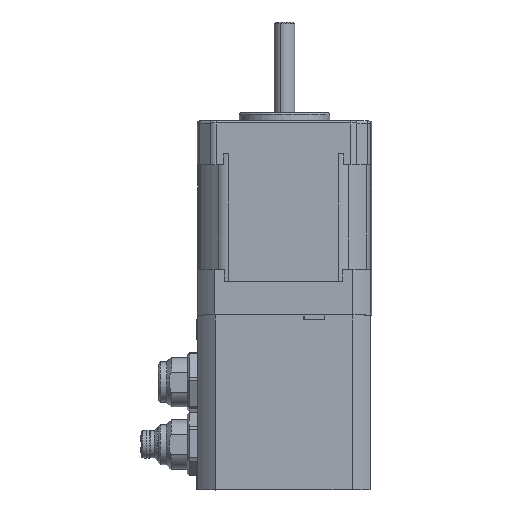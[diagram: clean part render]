
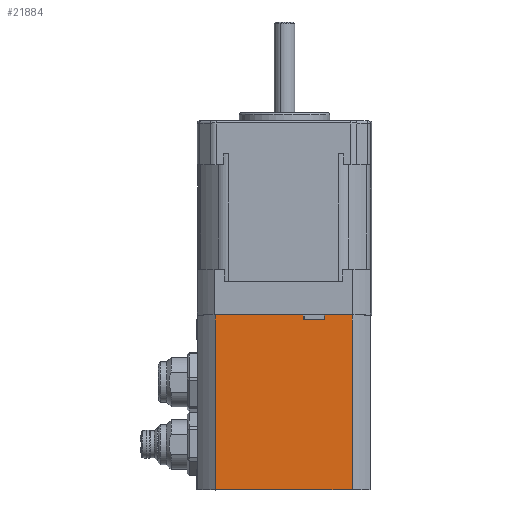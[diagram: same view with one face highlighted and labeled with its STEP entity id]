
A CAD part, top view. The second image highlights one B-rep face of the part: STEP entity #21884.
In plain terms, the highlighted planar face has unit normal (0, 0, 1) as drawn and (-1, 0, 0) by its records, which use the part's own axes.
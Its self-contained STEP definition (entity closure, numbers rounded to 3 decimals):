
#1638 = CARTESIAN_POINT ( 'NONE',  ( -21., -16.651, 0. ) ) ;
#1882 = CARTESIAN_POINT ( 'NONE',  ( -21., 16.651, 42.5 ) ) ;
#2570 = LINE ( 'NONE', #29302, #17766 ) ;
#3256 = CARTESIAN_POINT ( 'NONE',  ( -21., 16.651, 42.5 ) ) ;
#3631 = DIRECTION ( 'NONE',  ( 0., 1., 0. ) ) ;
#5632 = VECTOR ( 'NONE', #8927, 1000. ) ;
#5806 = LINE ( 'NONE', #13314, #27537 ) ;
#8302 = CARTESIAN_POINT ( 'NONE',  ( -21., 8.325, 41.3 ) ) ;
#8536 = CARTESIAN_POINT ( 'NONE',  ( -21., -4.8, 42.5 ) ) ;
#8927 = DIRECTION ( 'NONE',  ( 0., 0., -1. ) ) ;
#9353 = CARTESIAN_POINT ( 'NONE',  ( -21., -10., 41.3 ) ) ;
#9727 = VECTOR ( 'NONE', #3631, 1000. ) ;
#10263 = EDGE_CURVE ( 'NONE', #24401, #49385, #2570, .T. ) ;
#10707 = VECTOR ( 'NONE', #15327, 1000. ) ;
#10784 = LINE ( 'NONE', #3256, #51136 ) ;
#11979 = CARTESIAN_POINT ( 'NONE',  ( -21., 16.651, 0. ) ) ;
#12796 = CARTESIAN_POINT ( 'NONE',  ( -21., -10., 21.25 ) ) ;
#13055 = LINE ( 'NONE', #12796, #5632 ) ;
#13314 = CARTESIAN_POINT ( 'NONE',  ( -21., 16.651, 42.5 ) ) ;
#13544 = DIRECTION ( 'NONE',  ( 0., 0., 1. ) ) ;
#13801 = LINE ( 'NONE', #1638, #33965 ) ;
#14294 = LINE ( 'NONE', #26973, #10707 ) ;
#15327 = DIRECTION ( 'NONE',  ( 0., -1., 0. ) ) ;
#17275 = EDGE_CURVE ( 'NONE', #44589, #37929, #13055, .T. ) ;
#17766 = VECTOR ( 'NONE', #18372, 1000. ) ;
#17980 = VERTEX_POINT ( 'NONE', #35236 ) ;
#18372 = DIRECTION ( 'NONE',  ( 0., 0., 1. ) ) ;
#19301 = FACE_OUTER_BOUND ( 'NONE', #29882, .T. ) ;
#19303 = EDGE_CURVE ( 'NONE', #44589, #17980, #5806, .T. ) ;
#21073 = DIRECTION ( 'NONE',  ( 0., -1., 0. ) ) ;
#21095 = VECTOR ( 'NONE', #25749, 1000. ) ;
#21395 = ORIENTED_EDGE ( 'NONE', *, *, #41807, .T. ) ;
#21884 = ADVANCED_FACE ( 'NONE', ( #19301 ), #51225, .T. ) ;
#23138 = VERTEX_POINT ( 'NONE', #8536 ) ;
#23250 = ORIENTED_EDGE ( 'NONE', *, *, #19303, .F. ) ;
#24361 = ORIENTED_EDGE ( 'NONE', *, *, #10263, .F. ) ;
#24401 = VERTEX_POINT ( 'NONE', #11979 ) ;
#24956 = ORIENTED_EDGE ( 'NONE', *, *, #45730, .F. ) ;
#25232 = VERTEX_POINT ( 'NONE', #32269 ) ;
#25749 = DIRECTION ( 'NONE',  ( 0., 0., 1. ) ) ;
#26604 = EDGE_CURVE ( 'NONE', #37929, #39512, #27738, .T. ) ;
#26973 = CARTESIAN_POINT ( 'NONE',  ( -21., 16.651, 0. ) ) ;
#27537 = VECTOR ( 'NONE', #21073, 1000. ) ;
#27738 = LINE ( 'NONE', #8302, #9727 ) ;
#29302 = CARTESIAN_POINT ( 'NONE',  ( -21., 16.651, 0. ) ) ;
#29776 = CARTESIAN_POINT ( 'NONE',  ( -21., -10., 42.5 ) ) ;
#29882 = EDGE_LOOP ( 'NONE', ( #21395, #24956, #24361, #45961, #44023, #23250, #48814, #30714 ) ) ;
#30714 = ORIENTED_EDGE ( 'NONE', *, *, #26604, .T. ) ;
#32269 = CARTESIAN_POINT ( 'NONE',  ( -21., -16.651, 0. ) ) ;
#33965 = VECTOR ( 'NONE', #13544, 1000. ) ;
#35136 = CARTESIAN_POINT ( 'NONE',  ( -21., 16.651, 0. ) ) ;
#35236 = CARTESIAN_POINT ( 'NONE',  ( -21., -16.651, 42.5 ) ) ;
#35817 = CARTESIAN_POINT ( 'NONE',  ( -21., -4.8, 41.3 ) ) ;
#36736 = AXIS2_PLACEMENT_3D ( 'NONE', #35136, #50968, #39286 ) ;
#37929 = VERTEX_POINT ( 'NONE', #9353 ) ;
#39286 = DIRECTION ( 'NONE',  ( 0., 0., 1. ) ) ;
#39512 = VERTEX_POINT ( 'NONE', #35817 ) ;
#41807 = EDGE_CURVE ( 'NONE', #39512, #23138, #44702, .T. ) ;
#44023 = ORIENTED_EDGE ( 'NONE', *, *, #49372, .T. ) ;
#44589 = VERTEX_POINT ( 'NONE', #29776 ) ;
#44702 = LINE ( 'NONE', #49106, #21095 ) ;
#45730 = EDGE_CURVE ( 'NONE', #49385, #23138, #10784, .T. ) ;
#45961 = ORIENTED_EDGE ( 'NONE', *, *, #48238, .T. ) ;
#48238 = EDGE_CURVE ( 'NONE', #24401, #25232, #14294, .T. ) ;
#48814 = ORIENTED_EDGE ( 'NONE', *, *, #17275, .T. ) ;
#49106 = CARTESIAN_POINT ( 'NONE',  ( -21., -4.8, 21.25 ) ) ;
#49372 = EDGE_CURVE ( 'NONE', #25232, #17980, #13801, .T. ) ;
#49385 = VERTEX_POINT ( 'NONE', #1882 ) ;
#49929 = DIRECTION ( 'NONE',  ( 0., -1., 0. ) ) ;
#50968 = DIRECTION ( 'NONE',  ( -1., 0., 0. ) ) ;
#51136 = VECTOR ( 'NONE', #49929, 1000. ) ;
#51225 = PLANE ( 'NONE',  #36736 ) ;
